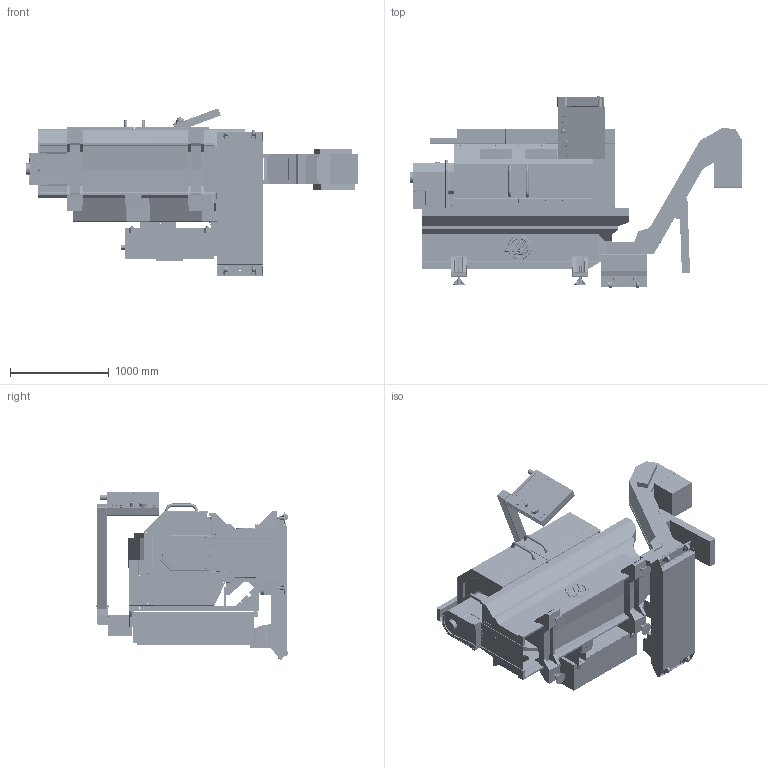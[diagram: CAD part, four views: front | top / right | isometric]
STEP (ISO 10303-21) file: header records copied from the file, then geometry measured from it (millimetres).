
FILE_DESCRIPTION (( 'STEP AP203' ), '1' );
FILE_NAME ('TL-1_STEP__5_2023.step', '2023-05-10T17:29:08', ( '' ), ( '' ), 'SwSTEP 2.0', 'SolidWorks 2022', '' );
FILE_SCHEMA (( 'CONFIG_CONTROL_DESIGN' ));
Length unit declared in the file: inch
Products named in the file (31): 8-STATION TURRET_TL-1; 10000131929_defeature-1; 10000024745_defeature-1; CROSS SLIDE_TL-1; DOOR RIGHT_TL-1; 10000024745_defeature-2; 10000021503_defeature-1; CHIP CONVEYOR_TL-1; TL-1_STEP__5_2023; Pads_DF; PENDANT BODY; Saddle_TL-1_11_2021; PADS_TL-1; DOOR-LEFT_TL-1; SADDLE_TL-1; ELECTRICAL CABINET_TL-1; 4-STATION TURRET_TL-1; 10000021503_defeature-3; 20-GALLON COOLANT TANK_TL-1; ELECTIRCAL CABINET_DOOR CLOSED; 10000021503_defeature-4; SPINDLE HEAD_TL-1; PENDANT_TL-1; 10000113012_defeature-1; Spindle_TL-1_11_2021; 10000023694_defeature-1; ENCLOSURE _TL-1; 10000131929_defeature-2; BASE _TL-1; 10000201136; Cross Slide_TL-1_11_2021
Assembly tree (33 placements, depth 3):
  TL-1_STEP__5_2023
    ENCLOSURE _TL-1
      10000021503_defeature-3
    BASE _TL-1
      10000023694_defeature-1
    CROSS SLIDE_TL-1
      Cross Slide_TL-1_11_2021
    SADDLE_TL-1
      Saddle_TL-1_11_2021
    ELECTRICAL CABINET_TL-1
      ELECTIRCAL CABINET_DOOR CLOSED
    4-STATION TURRET_TL-1
      10000024745_defeature-1
    8-STATION TURRET_TL-1
      10000024745_defeature-2
    SPINDLE HEAD_TL-1
      Spindle_TL-1_11_2021
    DOOR-LEFT_TL-1
      10000021503_defeature-1
    DOOR RIGHT_TL-1
      10000021503_defeature-4
    PENDANT_TL-1
      10000131929_defeature-2
      10000131929_defeature-1
      PENDANT BODY
    PADS_TL-1
      Pads_DF  x4
    CHIP CONVEYOR_TL-1
      10000201136
    20-GALLON COOLANT TANK_TL-1
      10000113012_defeature-1
Bounding box: 3368.32 x 1951.63 x 1697.46 mm (x, y, z)
Volume: 551904613.1 mm3; surface area: 50776576.8 mm2
Topology: 27 solids, 88 shells, 10470 faces, 26650 edges, 16503 vertices
Faces by surface type: plane 5886, cylinder 3303, cone 607, bspline 454, torus 150, sphere 70
Entity records: 332746 total; most frequent: CARTESIAN_POINT 82126, ORIENTED_EDGE 51612, DIRECTION 50920, EDGE_CURVE 25806, LINE 17012, VECTOR 17012, AXIS2_PLACEMENT_3D 16954, VERTEX_POINT 16148
